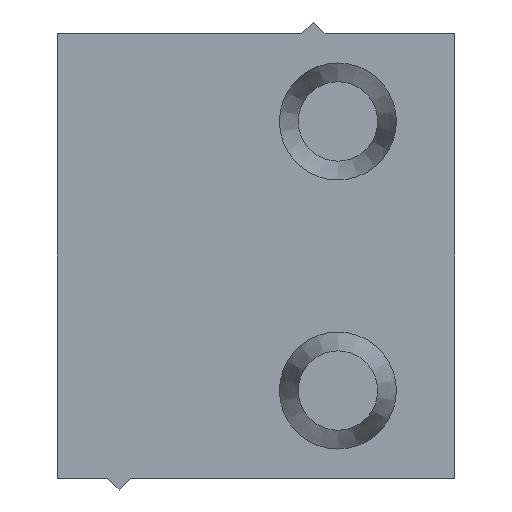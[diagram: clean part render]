
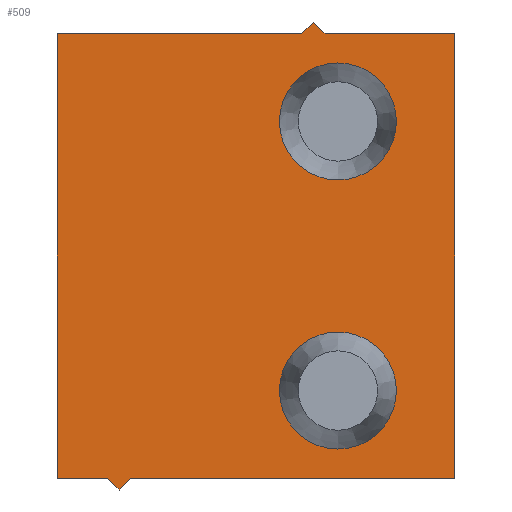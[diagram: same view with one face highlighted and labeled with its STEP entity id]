
A CAD part, left-side view. The second image highlights one B-rep face of the part: STEP entity #509.
In plain terms, the highlighted planar face has unit normal (-1, 0, 0).
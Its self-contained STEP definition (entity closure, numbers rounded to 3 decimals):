
#26=CIRCLE('',#553,2.5);
#27=CIRCLE('',#554,2.5);
#72=ORIENTED_EDGE('',*,*,#201,.T.);
#73=ORIENTED_EDGE('',*,*,#202,.F.);
#74=ORIENTED_EDGE('',*,*,#173,.T.);
#75=ORIENTED_EDGE('',*,*,#203,.F.);
#76=ORIENTED_EDGE('',*,*,#204,.F.);
#77=ORIENTED_EDGE('',*,*,#205,.T.);
#78=ORIENTED_EDGE('',*,*,#206,.F.);
#79=ORIENTED_EDGE('',*,*,#207,.F.);
#80=ORIENTED_EDGE('',*,*,#208,.F.);
#81=ORIENTED_EDGE('',*,*,#209,.F.);
#82=ORIENTED_EDGE('',*,*,#168,.F.);
#83=ORIENTED_EDGE('',*,*,#200,.T.);
#168=EDGE_CURVE('',#236,#237,#284,.T.);
#173=EDGE_CURVE('',#242,#240,#289,.T.);
#200=EDGE_CURVE('',#236,#242,#314,.T.);
#201=EDGE_CURVE('',#264,#264,#26,.T.);
#202=EDGE_CURVE('',#265,#265,#27,.F.);
#203=EDGE_CURVE('',#266,#240,#315,.T.);
#204=EDGE_CURVE('',#267,#266,#316,.T.);
#205=EDGE_CURVE('',#267,#268,#317,.T.);
#206=EDGE_CURVE('',#269,#268,#318,.T.);
#207=EDGE_CURVE('',#270,#269,#319,.T.);
#208=EDGE_CURVE('',#271,#270,#320,.T.);
#209=EDGE_CURVE('',#237,#271,#321,.T.);
#236=VERTEX_POINT('',#718);
#237=VERTEX_POINT('',#719);
#240=VERTEX_POINT('',#727);
#242=VERTEX_POINT('',#730);
#264=VERTEX_POINT('',#784);
#265=VERTEX_POINT('',#786);
#266=VERTEX_POINT('',#788);
#267=VERTEX_POINT('',#790);
#268=VERTEX_POINT('',#792);
#269=VERTEX_POINT('',#794);
#270=VERTEX_POINT('',#796);
#271=VERTEX_POINT('',#798);
#284=LINE('',#717,#344);
#289=LINE('',#729,#349);
#314=LINE('',#781,#374);
#315=LINE('',#787,#375);
#316=LINE('',#789,#376);
#317=LINE('',#791,#377);
#318=LINE('',#793,#378);
#319=LINE('',#795,#379);
#320=LINE('',#797,#380);
#321=LINE('',#799,#381);
#344=VECTOR('',#585,1000.);
#349=VECTOR('',#592,1000.);
#374=VECTOR('',#627,1000.);
#375=VECTOR('',#634,1000.);
#376=VECTOR('',#635,1000.);
#377=VECTOR('',#636,1000.);
#378=VECTOR('',#637,1000.);
#379=VECTOR('',#638,1000.);
#380=VECTOR('',#639,1000.);
#381=VECTOR('',#640,1000.);
#411=EDGE_LOOP('',(#72));
#412=EDGE_LOOP('',(#73));
#413=EDGE_LOOP('',(#74,#75,#76,#77,#78,#79,#80,#81,#82,#83));
#449=FACE_BOUND('',#411,.T.);
#450=FACE_BOUND('',#412,.T.);
#451=FACE_BOUND('',#413,.T.);
#485=PLANE('',#552);
#509=ADVANCED_FACE('',(#449,#450,#451),#485,.F.);
#552=AXIS2_PLACEMENT_3D('',#782,#628,#629);
#553=AXIS2_PLACEMENT_3D('',#783,#630,#631);
#554=AXIS2_PLACEMENT_3D('',#785,#632,#633);
#585=DIRECTION('',(0.,-1.,0.));
#592=DIRECTION('',(0.,-1.,0.));
#627=DIRECTION('',(0.,0.,-1.));
#628=DIRECTION('',(1.,0.,0.));
#629=DIRECTION('',(0.,0.,-1.));
#630=DIRECTION('',(1.,0.,0.));
#631=DIRECTION('',(0.,0.,-1.));
#632=DIRECTION('',(1.,0.,0.));
#633=DIRECTION('',(0.,0.,-1.));
#634=DIRECTION('',(0.,0.707,0.707));
#635=DIRECTION('',(0.,0.707,-0.707));
#636=DIRECTION('',(0.,-1.,0.));
#637=DIRECTION('',(0.,0.,-1.));
#638=DIRECTION('',(0.,-1.,0.));
#639=DIRECTION('',(0.,-0.707,-0.707));
#640=DIRECTION('',(0.,-0.707,0.707));
#717=CARTESIAN_POINT('',(0.,17.,9.5));
#718=CARTESIAN_POINT('',(0.,17.,9.5));
#719=CARTESIAN_POINT('',(0.,6.55,9.5));
#727=CARTESIAN_POINT('',(0.,14.85,-9.5));
#729=CARTESIAN_POINT('',(0.,17.,-9.5));
#730=CARTESIAN_POINT('',(0.,17.,-9.5));
#781=CARTESIAN_POINT('',(0.,17.,9.5));
#782=CARTESIAN_POINT('',(0.,17.,9.5));
#783=CARTESIAN_POINT('',(0.,5.,5.75));
#784=CARTESIAN_POINT('',(0.,5.,3.25));
#785=CARTESIAN_POINT('',(0.,5.,-5.75));
#786=CARTESIAN_POINT('',(0.,5.,-8.25));
#787=CARTESIAN_POINT('',(0.,14.35,-10.));
#788=CARTESIAN_POINT('',(0.,14.35,-10.));
#789=CARTESIAN_POINT('',(0.,13.85,-9.5));
#790=CARTESIAN_POINT('',(0.,13.85,-9.5));
#791=CARTESIAN_POINT('',(0.,17.,-9.5));
#792=CARTESIAN_POINT('',(0.,0.,-9.5));
#793=CARTESIAN_POINT('',(0.,0.,9.5));
#794=CARTESIAN_POINT('',(0.,0.,9.5));
#795=CARTESIAN_POINT('',(0.,17.,9.5));
#796=CARTESIAN_POINT('',(0.,5.55,9.5));
#797=CARTESIAN_POINT('',(0.,6.05,10.));
#798=CARTESIAN_POINT('',(0.,6.05,10.));
#799=CARTESIAN_POINT('',(0.,6.55,9.5));
